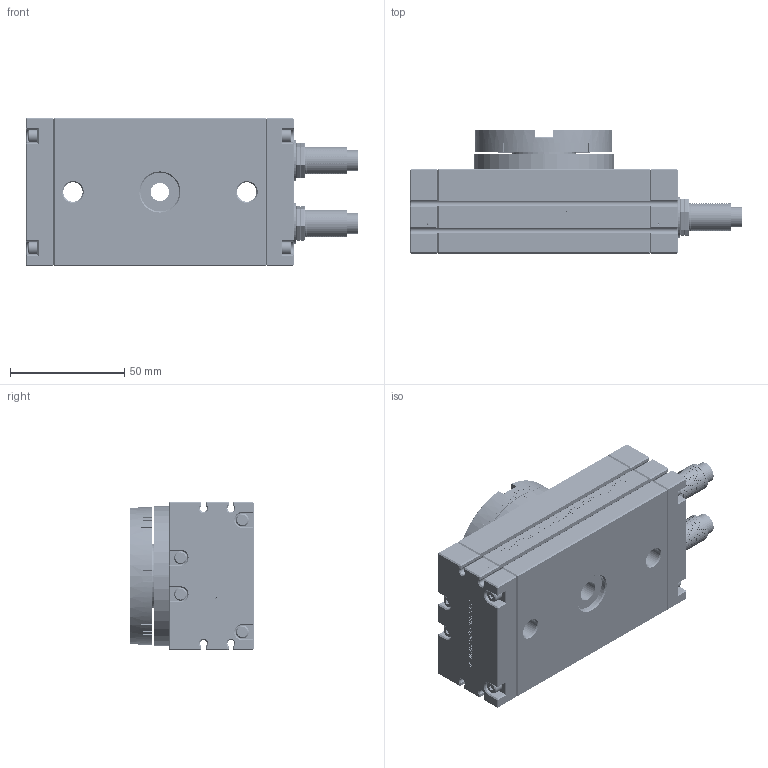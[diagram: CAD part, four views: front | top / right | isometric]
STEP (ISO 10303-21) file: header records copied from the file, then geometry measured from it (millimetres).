
FILE_DESCRIPTION (( 'STEP AP203' ), '1' );
FILE_NAME ('GTB 20.STEP', '2013-05-06T07:09:22', ( 'Christophe Gaillard' ), ( 'SGA' ), 'SwSTEP 2.0', 'SolidWorks 2010', '' );
FILE_SCHEMA (( 'CONFIG_CONTROL_DESIGN' ));
Products named in the file (11): Boulon RTB 20_Default; Amortisseur RTB 20_Default; Disque RTB 20_Default; Vis corp 20_Default; GTB 20; Pièce A GTB 20_Default; Butée en caoutchouc GTB 20_Default; Petite vis GTB 20_Default; Pièce B GTB 20_Default; Vis pièce A et B RTB 20_Default; RTB 20 corp_Default
Assembly tree (40 placements, depth 2):
  GTB 20
    Vis pièce A et B RTB 20_Default  x8
    Amortisseur RTB 20_Default  x2
    Petite vis GTB 20_Default  x8
    Boulon RTB 20_Default  x4
    Vis corp 20_Default  x12
    Disque RTB 20_Default
    Pièce A GTB 20_Default
    Butée en caoutchouc GTB 20_Default  x2
    RTB 20 corp_Default
    Pièce B GTB 20_Default
Bounding box: 145.1 x 54 x 65 mm (x, y, z)
Volume: 303394.4 mm3; surface area: 76545.4 mm2
Topology: 40 solids, 40 shells, 23099 faces, 53649 edges, 32484 vertices
Faces by surface type: plane 13074, cylinder 5008, cone 3695, bspline 586, torus 538, sphere 198
Entity records: 195404 total; most frequent: CARTESIAN_POINT 64061, DIRECTION 27549, ORIENTED_EDGE 26458, EDGE_CURVE 13229, AXIS2_PLACEMENT_3D 10362, VERTEX_POINT 7886, VECTOR 6825, LINE 6825
